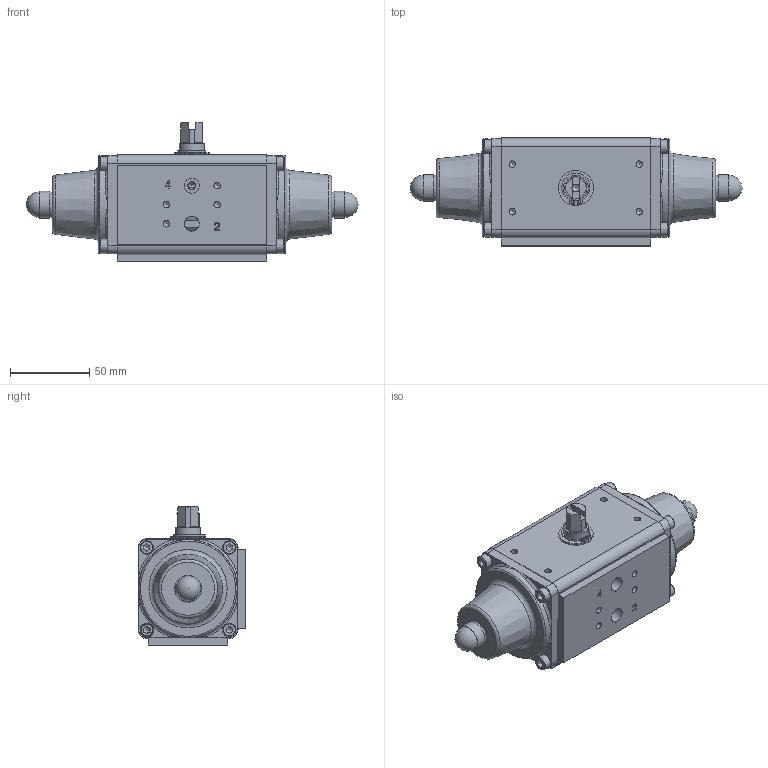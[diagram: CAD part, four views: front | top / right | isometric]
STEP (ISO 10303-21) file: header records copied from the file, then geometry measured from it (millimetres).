
FILE_DESCRIPTION((''),'2;1');
FILE_NAME('C:\Dokumente und Einstellungen\ko-p\Desktop\PGF 07 BR04.stp','2011-06-01T12:17:31',('war'),(''),'Autodesk Inventor 2010','Autodesk Inventor 2010','');
FILE_SCHEMA(('AUTOMOTIVE_DESIGN { 1 0 10303 214 1 1 1 1 }'));
Length unit declared in the file: millimetre
Products named in the file (1): ENG-036812_Konturvereinfachung_1
Bounding box: 209.3 x 68 x 87 mm (x, y, z)
Surface area: 72365 mm2 (no closed solid volume)
Topology: 0 solids, 30 shells, 273 faces, 939 edges, 664 vertices
Faces by surface type: plane 138, bspline 64, cylinder 40, cone 15, torus 14, sphere 2
Full cylindrical faces by diameter (mm): 4.134 x2, 8.5 x9, 14 x1, 14.9 x1, 15.8 x1, 16 x2, 17 x2, 22 x1, 48 x1, 62 x2
Entity records: 10927 total; most frequent: CARTESIAN_POINT 3681, DIRECTION 1337, ORIENTED_EDGE 1210, EDGE_CURVE 779, VERTEX_POINT 610, AXIS2_PLACEMENT_3D 458, VECTOR 421, LINE 421
